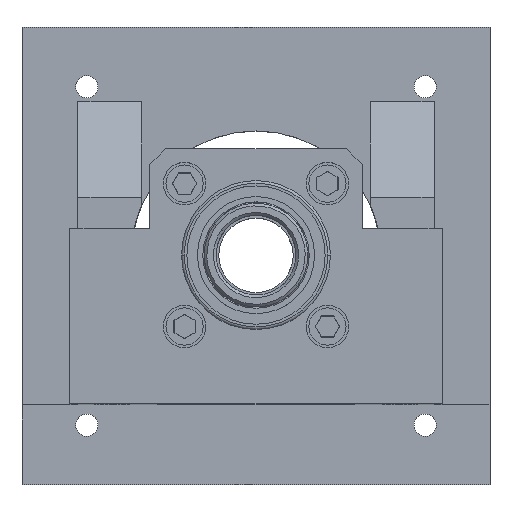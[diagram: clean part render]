
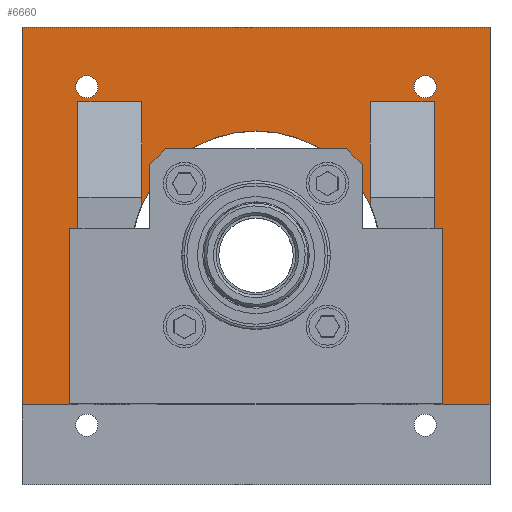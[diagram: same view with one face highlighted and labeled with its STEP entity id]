
A CAD part, top view. The second image highlights one B-rep face of the part: STEP entity #6660.
In plain terms, the highlighted planar face has unit normal (0, 0, 1).
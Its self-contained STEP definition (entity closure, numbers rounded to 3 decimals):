
#149 = CARTESIAN_POINT ( 'NONE',  ( 33.92, 31.82, -90. ) ) ;
#243 = LINE ( 'NONE', #2261, #11586 ) ;
#305 = AXIS2_PLACEMENT_3D ( 'NONE', #2470, #9919, #3546 ) ;
#365 = CARTESIAN_POINT ( 'NONE',  ( 33.5, -28., -90. ) ) ;
#376 = DIRECTION ( 'NONE',  ( 0., 0., 1. ) ) ;
#555 = DIRECTION ( 'NONE',  ( 0., 0., 1. ) ) ;
#565 = EDGE_CURVE ( 'NONE', #12077, #8853, #6944, .T. ) ;
#585 = LINE ( 'NONE', #6823, #8444 ) ;
#594 = VECTOR ( 'NONE', #12599, 1000. ) ;
#641 = VECTOR ( 'NONE', #11475, 1000. ) ;
#654 = VERTEX_POINT ( 'NONE', #7970 ) ;
#728 = CARTESIAN_POINT ( 'NONE',  ( 29.72, 31.82, -90. ) ) ;
#1058 = EDGE_CURVE ( 'NONE', #654, #4494, #12477, .T. ) ;
#1141 = CARTESIAN_POINT ( 'NONE',  ( -31.82, 31.82, -90. ) ) ;
#1364 = CARTESIAN_POINT ( 'NONE',  ( -44., -28., -90. ) ) ;
#1448 = VECTOR ( 'NONE', #3746, 1000. ) ;
#1461 = EDGE_CURVE ( 'NONE', #1737, #13636, #6339, .T. ) ;
#1504 = ORIENTED_EDGE ( 'NONE', *, *, #12974, .T. ) ;
#1617 = EDGE_CURVE ( 'NONE', #5811, #8355, #7499, .T. ) ;
#1737 = VERTEX_POINT ( 'NONE', #2672 ) ;
#1840 = VERTEX_POINT ( 'NONE', #728 ) ;
#2045 = ORIENTED_EDGE ( 'NONE', *, *, #1058, .F. ) ;
#2201 = DIRECTION ( 'NONE',  ( 1., 0., 0. ) ) ;
#2213 = DIRECTION ( 'NONE',  ( 0., 1., 0. ) ) ;
#2261 = CARTESIAN_POINT ( 'NONE',  ( -44., -43., -90. ) ) ;
#2277 = DIRECTION ( 'NONE',  ( -1., 0., 0. ) ) ;
#2303 = EDGE_CURVE ( 'NONE', #5744, #7098, #12797, .T. ) ;
#2431 = ORIENTED_EDGE ( 'NONE', *, *, #6528, .F. ) ;
#2470 = CARTESIAN_POINT ( 'NONE',  ( 0., 0., -90. ) ) ;
#2672 = CARTESIAN_POINT ( 'NONE',  ( 44., -28., -90. ) ) ;
#3045 = CARTESIAN_POINT ( 'NONE',  ( 33.5, 4., -90. ) ) ;
#3152 = ORIENTED_EDGE ( 'NONE', *, *, #12232, .F. ) ;
#3166 = CARTESIAN_POINT ( 'NONE',  ( 44., 43., -90. ) ) ;
#3292 = ORIENTED_EDGE ( 'NONE', *, *, #11129, .F. ) ;
#3546 = DIRECTION ( 'NONE',  ( 1., 0., 0. ) ) ;
#3746 = DIRECTION ( 'NONE',  ( -1., 0., 0. ) ) ;
#3771 = VECTOR ( 'NONE', #3853, 1000. ) ;
#3853 = DIRECTION ( 'NONE',  ( -1., 0., 0. ) ) ;
#4018 = VERTEX_POINT ( 'NONE', #6899 ) ;
#4030 = ORIENTED_EDGE ( 'NONE', *, *, #6168, .T. ) ;
#4045 = ORIENTED_EDGE ( 'NONE', *, *, #5759, .T. ) ;
#4105 = FACE_BOUND ( 'NONE', #9502, .T. ) ;
#4195 = EDGE_LOOP ( 'NONE', ( #13524, #2431 ) ) ;
#4377 = CARTESIAN_POINT ( 'NONE',  ( 21.5, 4., -90. ) ) ;
#4494 = VERTEX_POINT ( 'NONE', #9588 ) ;
#4523 = DIRECTION ( 'NONE',  ( 0., 0., 1. ) ) ;
#4604 = LINE ( 'NONE', #4377, #12420 ) ;
#4635 = EDGE_CURVE ( 'NONE', #5674, #7098, #243, .T. ) ;
#4783 = LINE ( 'NONE', #3166, #10107 ) ;
#4818 = CARTESIAN_POINT ( 'NONE',  ( 44., -28., -90. ) ) ;
#4830 = EDGE_CURVE ( 'NONE', #4018, #5744, #6745, .T. ) ;
#5293 = CIRCLE ( 'NONE', #7508, 2.1 ) ;
#5656 = EDGE_CURVE ( 'NONE', #1840, #7545, #5293, .T. ) ;
#5674 = VERTEX_POINT ( 'NONE', #9826 ) ;
#5744 = VERTEX_POINT ( 'NONE', #12841 ) ;
#5759 = EDGE_CURVE ( 'NONE', #8899, #8853, #4604, .T. ) ;
#5811 = VERTEX_POINT ( 'NONE', #9716 ) ;
#5816 = CARTESIAN_POINT ( 'NONE',  ( 21.5, 29., -90. ) ) ;
#5856 = CARTESIAN_POINT ( 'NONE',  ( 21.5, 9.487, -90. ) ) ;
#5867 = CARTESIAN_POINT ( 'NONE',  ( -29.72, 31.82, -90. ) ) ;
#6068 = DIRECTION ( 'NONE',  ( 1., 0., 0. ) ) ;
#6168 = EDGE_CURVE ( 'NONE', #12077, #13636, #11927, .T. ) ;
#6299 = AXIS2_PLACEMENT_3D ( 'NONE', #1141, #8596, #2201 ) ;
#6339 = LINE ( 'NONE', #9331, #641 ) ;
#6407 = AXIS2_PLACEMENT_3D ( 'NONE', #6768, #376, #7839 ) ;
#6528 = EDGE_CURVE ( 'NONE', #7545, #1840, #8926, .T. ) ;
#6609 = CARTESIAN_POINT ( 'NONE',  ( -44., 29., -90. ) ) ;
#6660 = ADVANCED_FACE ( 'NONE', ( #6927, #4105, #12221 ), #13313, .T. ) ;
#6722 = ORIENTED_EDGE ( 'NONE', *, *, #2303, .F. ) ;
#6745 = LINE ( 'NONE', #6924, #11738 ) ;
#6768 = CARTESIAN_POINT ( 'NONE',  ( 31.82, 31.82, -90. ) ) ;
#6823 = CARTESIAN_POINT ( 'NONE',  ( 44., -43., -90. ) ) ;
#6899 = CARTESIAN_POINT ( 'NONE',  ( -33.5, 29., -90. ) ) ;
#6924 = CARTESIAN_POINT ( 'NONE',  ( -33.5, 4., -90. ) ) ;
#6927 = FACE_OUTER_BOUND ( 'NONE', #9495, .T. ) ;
#6944 = LINE ( 'NONE', #11306, #3771 ) ;
#7098 = VERTEX_POINT ( 'NONE', #1364 ) ;
#7273 = VERTEX_POINT ( 'NONE', #13362 ) ;
#7499 = CIRCLE ( 'NONE', #9194, 2.1 ) ;
#7508 = AXIS2_PLACEMENT_3D ( 'NONE', #10893, #4523, #11969 ) ;
#7545 = VERTEX_POINT ( 'NONE', #149 ) ;
#7602 = ORIENTED_EDGE ( 'NONE', *, *, #565, .F. ) ;
#7824 = ORIENTED_EDGE ( 'NONE', *, *, #10657, .T. ) ;
#7839 = DIRECTION ( 'NONE',  ( 1., 0., 0. ) ) ;
#7841 = DIRECTION ( 'NONE',  ( 0., 1., 0. ) ) ;
#7889 = DIRECTION ( 'NONE',  ( 0., 1., 0. ) ) ;
#7970 = CARTESIAN_POINT ( 'NONE',  ( -21.5, 9.487, -90. ) ) ;
#8026 = DIRECTION ( 'NONE',  ( 1., 0., 0. ) ) ;
#8355 = VERTEX_POINT ( 'NONE', #5867 ) ;
#8444 = VECTOR ( 'NONE', #7889, 1000. ) ;
#8451 = CARTESIAN_POINT ( 'NONE',  ( -31.82, 31.82, -90. ) ) ;
#8485 = ORIENTED_EDGE ( 'NONE', *, *, #1617, .F. ) ;
#8596 = DIRECTION ( 'NONE',  ( 0., 0., 1. ) ) ;
#8650 = ORIENTED_EDGE ( 'NONE', *, *, #10975, .F. ) ;
#8853 = VERTEX_POINT ( 'NONE', #5816 ) ;
#8899 = VERTEX_POINT ( 'NONE', #5856 ) ;
#8926 = CIRCLE ( 'NONE', #6407, 2.1 ) ;
#9075 = ORIENTED_EDGE ( 'NONE', *, *, #1461, .F. ) ;
#9194 = AXIS2_PLACEMENT_3D ( 'NONE', #8451, #12714, #6068 ) ;
#9331 = CARTESIAN_POINT ( 'NONE',  ( 44., -28., -90. ) ) ;
#9495 = EDGE_LOOP ( 'NONE', ( #9075, #1504, #7824, #9874, #6722, #9529, #3152, #2045, #3292, #4045, #7602, #4030 ) ) ;
#9502 = EDGE_LOOP ( 'NONE', ( #8485, #8650 ) ) ;
#9529 = ORIENTED_EDGE ( 'NONE', *, *, #4830, .F. ) ;
#9588 = CARTESIAN_POINT ( 'NONE',  ( -21.5, 29., -90. ) ) ;
#9716 = CARTESIAN_POINT ( 'NONE',  ( -33.92, 31.82, -90. ) ) ;
#9826 = CARTESIAN_POINT ( 'NONE',  ( -44., 43., -90. ) ) ;
#9874 = ORIENTED_EDGE ( 'NONE', *, *, #4635, .T. ) ;
#9919 = DIRECTION ( 'NONE',  ( 0., 0., 1. ) ) ;
#10096 = LINE ( 'NONE', #6609, #12937 ) ;
#10100 = CARTESIAN_POINT ( 'NONE',  ( -44., 43., -90. ) ) ;
#10107 = VECTOR ( 'NONE', #2277, 1000. ) ;
#10280 = CIRCLE ( 'NONE', #6299, 2.1 ) ;
#10464 = CARTESIAN_POINT ( 'NONE',  ( -21.5, 4., -90. ) ) ;
#10657 = EDGE_CURVE ( 'NONE', #7273, #5674, #4783, .T. ) ;
#10658 = CARTESIAN_POINT ( 'NONE',  ( 33.5, 29., -90. ) ) ;
#10893 = CARTESIAN_POINT ( 'NONE',  ( 31.82, 31.82, -90. ) ) ;
#10975 = EDGE_CURVE ( 'NONE', #8355, #5811, #10280, .T. ) ;
#11129 = EDGE_CURVE ( 'NONE', #8899, #654, #12091, .T. ) ;
#11306 = CARTESIAN_POINT ( 'NONE',  ( -44., 29., -90. ) ) ;
#11475 = DIRECTION ( 'NONE',  ( -1., 0., 0. ) ) ;
#11586 = VECTOR ( 'NONE', #11958, 1000. ) ;
#11738 = VECTOR ( 'NONE', #13294, 1000. ) ;
#11927 = LINE ( 'NONE', #3045, #594 ) ;
#11958 = DIRECTION ( 'NONE',  ( 0., -1., 0. ) ) ;
#11969 = DIRECTION ( 'NONE',  ( 1., 0., 0. ) ) ;
#12077 = VERTEX_POINT ( 'NONE', #10658 ) ;
#12091 = CIRCLE ( 'NONE', #305, 23.5 ) ;
#12133 = VECTOR ( 'NONE', #7841, 1000. ) ;
#12221 = FACE_BOUND ( 'NONE', #4195, .T. ) ;
#12232 = EDGE_CURVE ( 'NONE', #4494, #4018, #10096, .T. ) ;
#12420 = VECTOR ( 'NONE', #2213, 1000. ) ;
#12477 = LINE ( 'NONE', #10464, #12133 ) ;
#12599 = DIRECTION ( 'NONE',  ( 0., -1., 0. ) ) ;
#12714 = DIRECTION ( 'NONE',  ( 0., 0., 1. ) ) ;
#12797 = LINE ( 'NONE', #4818, #1448 ) ;
#12841 = CARTESIAN_POINT ( 'NONE',  ( -33.5, -28., -90. ) ) ;
#12937 = VECTOR ( 'NONE', #12975, 1000. ) ;
#12974 = EDGE_CURVE ( 'NONE', #1737, #7273, #585, .T. ) ;
#12975 = DIRECTION ( 'NONE',  ( -1., 0., 0. ) ) ;
#13294 = DIRECTION ( 'NONE',  ( 0., -1., 0. ) ) ;
#13313 = PLANE ( 'NONE',  #13530 ) ;
#13362 = CARTESIAN_POINT ( 'NONE',  ( 44., 43., -90. ) ) ;
#13524 = ORIENTED_EDGE ( 'NONE', *, *, #5656, .F. ) ;
#13530 = AXIS2_PLACEMENT_3D ( 'NONE', #10100, #555, #8026 ) ;
#13636 = VERTEX_POINT ( 'NONE', #365 ) ;
